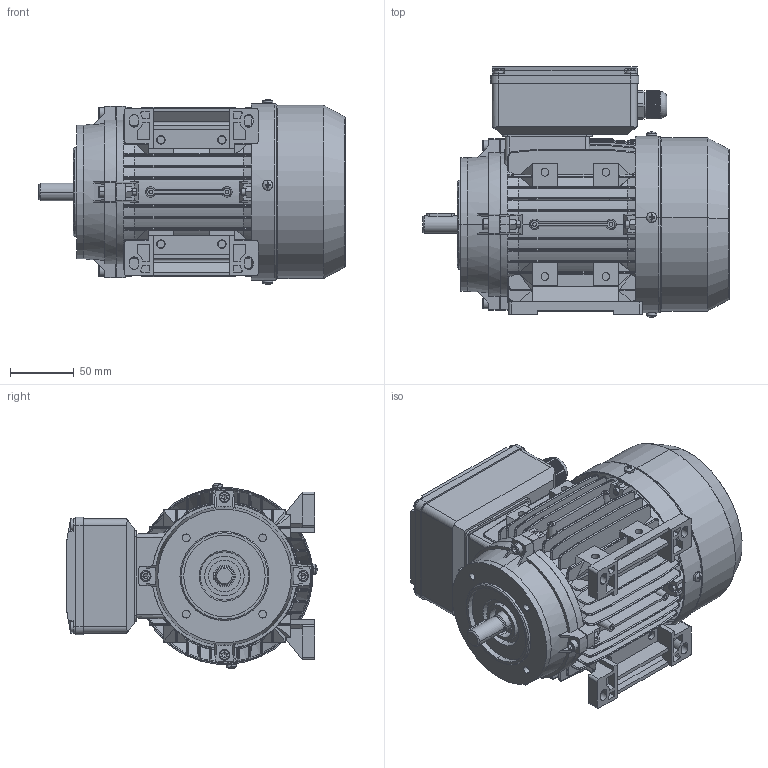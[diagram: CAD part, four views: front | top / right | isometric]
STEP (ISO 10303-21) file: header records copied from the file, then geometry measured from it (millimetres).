
FILE_DESCRIPTION (( 'STEP AP214' ), '1' );
FILE_NAME ('BMM0055.07C234.11.step', '2020-04-23T12:32:03', ( '' ), ( '' ), 'SwSTEP 2.0', 'SolidWorks 2019', '' );
FILE_SCHEMA (( 'AUTOMOTIVE_DESIGN' ));
Length unit declared in the file: millimetre
Products named in the file (1): BMM0055.07C234.11
Bounding box: 241 x 196.91 x 145.82 mm (x, y, z)
Volume: 670832.5 mm3; surface area: 514639.5 mm2
Topology: 35 solids, 35 shells, 3610 faces, 9503 edges, 5961 vertices
Faces by surface type: plane 1944, cylinder 1037, cone 227, torus 142, bspline 142, sphere 118
Entity records: 126959 total; most frequent: CARTESIAN_POINT 39364, ORIENTED_EDGE 18834, DIRECTION 17329, EDGE_CURVE 9417, AXIS2_PLACEMENT_3D 5962, VERTEX_POINT 5961, LINE 5405, VECTOR 5405
